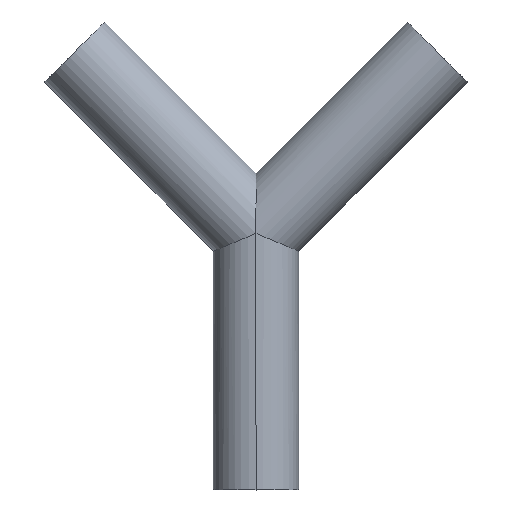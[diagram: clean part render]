
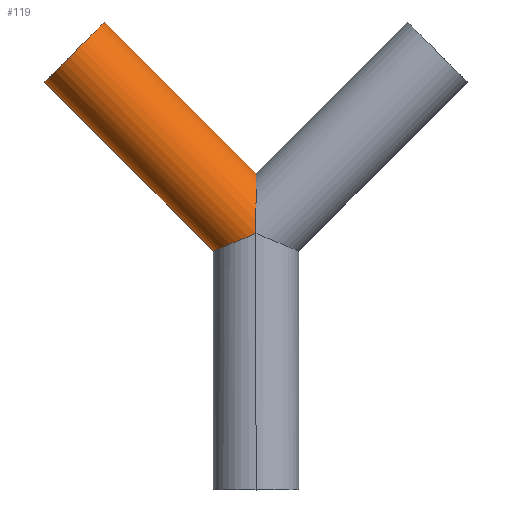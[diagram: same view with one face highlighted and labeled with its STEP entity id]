
A CAD part, top view. The second image highlights one B-rep face of the part: STEP entity #119.
In plain terms, the highlighted cylindrical face has radius 12.7 mm (diameter 25.4 mm), a partial arc.
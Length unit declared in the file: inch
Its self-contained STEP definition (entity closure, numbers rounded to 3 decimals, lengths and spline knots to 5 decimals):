
#2 =( BOUNDED_CURVE ( )  B_SPLINE_CURVE ( 3, ( #218, #404, #315, #60 ),
 .UNSPECIFIED., .F., .F. ) 
 B_SPLINE_CURVE_WITH_KNOTS ( ( 4, 4 ),
 ( 4.71239, 6.28319 ),
 .UNSPECIFIED. ) 
 CURVE ( )  GEOMETRIC_REPRESENTATION_ITEM ( )  RATIONAL_B_SPLINE_CURVE ( ( 1., 0.805, 0.805, 1. ) ) 
 REPRESENTATION_ITEM ( '' )  );
#7 = EDGE_CURVE ( 'NONE', #435, #422, #538, .T. ) ;
#8 = LINE ( 'NONE', #457, #458 ) ;
#27 = ORIENTED_EDGE ( 'NONE', *, *, #200, .F. ) ;
#29 = CARTESIAN_POINT ( 'NONE',  ( 0., 3.70711, 0. ) ) ;
#39 = DIRECTION ( 'NONE',  ( -0.707, -0.707, 0. ) ) ;
#41 = VERTEX_POINT ( 'NONE', #29 ) ;
#52 = DIRECTION ( 'NONE',  ( -0.707, 0.707, 0. ) ) ;
#55 = CARTESIAN_POINT ( 'NONE',  ( -0.5, 2.79289, 0.29289 ) ) ;
#60 = CARTESIAN_POINT ( 'NONE',  ( 0., 3.70711, 0. ) ) ;
#73 = CYLINDRICAL_SURFACE ( 'NONE', #194, 0.5 ) ;
#83 = ORIENTED_EDGE ( 'NONE', *, *, #126, .F. ) ;
#93 = DIRECTION ( 'NONE',  ( -0.707, 0.707, 0. ) ) ;
#102 = CARTESIAN_POINT ( 'NONE',  ( -0.5, 2.79289, 0. ) ) ;
#119 = ADVANCED_FACE ( 'NONE', ( #340 ), #73, .T. ) ;
#126 = EDGE_CURVE ( 'NONE', #287, #435, #184, .T. ) ;
#128 = CARTESIAN_POINT ( 'NONE',  ( 0., 3., 0. ) ) ;
#133 = CARTESIAN_POINT ( 'NONE',  ( 0., 3., 0.5 ) ) ;
#184 = LINE ( 'NONE', #207, #332 ) ;
#194 = AXIS2_PLACEMENT_3D ( 'NONE', #128, #52, #250 ) ;
#200 = EDGE_CURVE ( 'NONE', #247, #287, #352, .T. ) ;
#207 = CARTESIAN_POINT ( 'NONE',  ( -0.35355, 2.64645, 0. ) ) ;
#218 = CARTESIAN_POINT ( 'NONE',  ( 0., 3., 0.5 ) ) ;
#247 = VERTEX_POINT ( 'NONE', #133 ) ;
#250 = DIRECTION ( 'NONE',  ( -0.707, -0.707, 0. ) ) ;
#287 = VERTEX_POINT ( 'NONE', #102 ) ;
#291 = ORIENTED_EDGE ( 'NONE', *, *, #7, .F. ) ;
#299 = ORIENTED_EDGE ( 'NONE', *, *, #348, .T. ) ;
#301 = CARTESIAN_POINT ( 'NONE',  ( 0., 3., 0.5 ) ) ;
#304 = CARTESIAN_POINT ( 'NONE',  ( -0.29289, 2.87868, 0.5 ) ) ;
#308 = EDGE_LOOP ( 'NONE', ( #407, #299, #291, #83, #27 ) ) ;
#315 = CARTESIAN_POINT ( 'NONE',  ( 0., 3.70711, 0.29289 ) ) ;
#332 = VECTOR ( 'NONE', #93, 39.37008 ) ;
#340 = FACE_OUTER_BOUND ( 'NONE', #308, .T. ) ;
#348 = EDGE_CURVE ( 'NONE', #41, #422, #8, .T. ) ;
#352 =( BOUNDED_CURVE ( )  B_SPLINE_CURVE ( 3, ( #301, #304, #55, #363 ),
 .UNSPECIFIED., .F., .F. ) 
 B_SPLINE_CURVE_WITH_KNOTS ( ( 4, 4 ),
 ( 4.71239, 6.28319 ),
 .UNSPECIFIED. ) 
 CURVE ( )  GEOMETRIC_REPRESENTATION_ITEM ( )  RATIONAL_B_SPLINE_CURVE ( ( 1., 0.805, 0.805, 1. ) ) 
 REPRESENTATION_ITEM ( '' )  );
#363 = CARTESIAN_POINT ( 'NONE',  ( -0.5, 2.79289, 0. ) ) ;
#375 = DIRECTION ( 'NONE',  ( -0.707, 0.707, 0. ) ) ;
#379 = CARTESIAN_POINT ( 'NONE',  ( -2.47487, 4.76777, 0. ) ) ;
#392 = AXIS2_PLACEMENT_3D ( 'NONE', #470, #427, #39 ) ;
#404 = CARTESIAN_POINT ( 'NONE',  ( 0., 3.41421, 0.5 ) ) ;
#407 = ORIENTED_EDGE ( 'NONE', *, *, #531, .T. ) ;
#422 = VERTEX_POINT ( 'NONE', #535 ) ;
#427 = DIRECTION ( 'NONE',  ( -0.707, 0.707, 0. ) ) ;
#435 = VERTEX_POINT ( 'NONE', #379 ) ;
#457 = CARTESIAN_POINT ( 'NONE',  ( 0.35355, 3.35355, 0. ) ) ;
#458 = VECTOR ( 'NONE', #375, 39.37008 ) ;
#470 = CARTESIAN_POINT ( 'NONE',  ( -2.12132, 5.12132, 0. ) ) ;
#531 = EDGE_CURVE ( 'NONE', #247, #41, #2, .T. ) ;
#535 = CARTESIAN_POINT ( 'NONE',  ( -1.76777, 5.47487, 0. ) ) ;
#538 = CIRCLE ( 'NONE', #392, 0.5 ) ;
